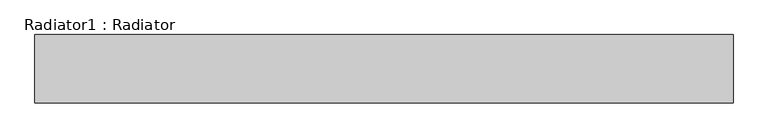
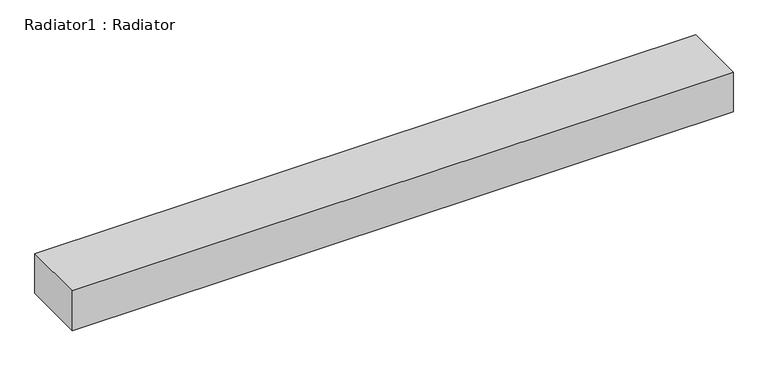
"""IFC4 building model written with IfcOpenShell, lengths in millimetres: proxy geometry, Radiator1 : Radiator."""

from ifc_helpers import new_model, si_unit, frame, origin, place, context, project, spatial, polyline, outline, extrude, source, transform, mapped, element, save


def radiator1_radiator_8c1c74d1(model_context):
    return source(origin(), model_context, "Body", "SweptSolid", [
        extrude(outline(polyline([(8970.6421651, -6010.5270567), (8970.6421651, -6824.7064015), (682.3060211, -6824.7064015), (682.3060211, -6010.5270567), (8970.6421651, -6010.5270567)])), frame((0.0, 0.0, 51206.4), z_axis=(0.0, 0.0, 1.0), x_axis=(1.0, 0.0, 0.0)), (0.0, 0.0, 1.0), 526.0281286),
    ])


if __name__ == "__main__":
    model = new_model("IFC4")
    model_context = context("Model", 3, world=origin())
    ifc_project = project(units=[si_unit("LENGTHUNIT", "METRE", prefix="MILLI")], contexts=[model_context])
    site = spatial("IfcSite", under=ifc_project)
    building = spatial("IfcBuilding", under=site)
    placement = place(None, origin())
    radiator1_radiator_shape = radiator1_radiator_8c1c74d1(model_context)
    element("IfcBuildingElementProxy", 1, Name="Radiator1 : Radiator", ObjectType="Radiator1 : Radiator", at=placement, inside=building, context=model_context, shape_type="MappedRepresentation", body=[
        mapped(radiator1_radiator_shape, transform((0.0, 0.0, 0.0), x_axis=(1.0, 0.0, 0.0), y_axis=(0.0, 1.0, 0.0), z_axis=(0.0, 0.0, 1.0))),
    ])
    save(model, "model.ifc")
